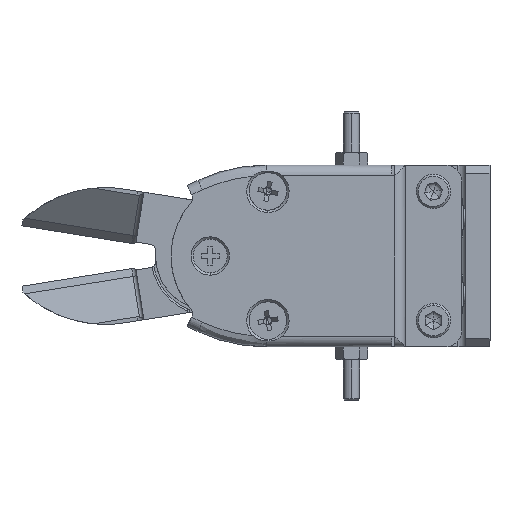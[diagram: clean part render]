
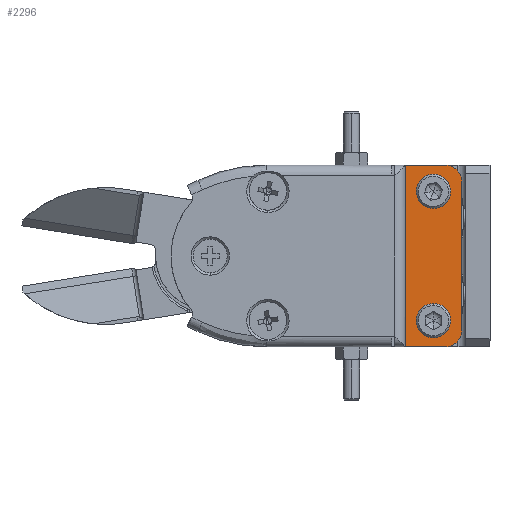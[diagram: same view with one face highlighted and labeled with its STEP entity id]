
A CAD part, left-side view. The second image highlights one B-rep face of the part: STEP entity #2296.
In plain terms, the highlighted planar face has unit normal (-1, 0, 0).
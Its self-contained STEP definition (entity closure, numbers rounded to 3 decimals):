
#403 = DIRECTION ( 'NONE',  ( -1., 0., 0. ) ) ;
#567 = DIRECTION ( 'NONE',  ( 0., 0.982, -0.186 ) ) ;
#611 = DIRECTION ( 'NONE',  ( -1., 0., 0. ) ) ;
#841 = EDGE_CURVE ( 'NONE', #23301, #12647, #6383, .T. ) ;
#861 = VECTOR ( 'NONE', #20092, 1000. ) ;
#977 = EDGE_CURVE ( 'NONE', #8462, #8781, #2519, .T. ) ;
#1055 = DIRECTION ( 'NONE',  ( 0., -0.006, 1. ) ) ;
#1194 = CARTESIAN_POINT ( 'NONE',  ( -90.1, -23.5, -22.5 ) ) ;
#1315 = CARTESIAN_POINT ( 'NONE',  ( -90.1, -23.5, 22.5 ) ) ;
#1389 = CARTESIAN_POINT ( 'NONE',  ( -90.1, -13.5, -22.5 ) ) ;
#1611 = CARTESIAN_POINT ( 'NONE',  ( -90.1, -16.324, 15.208 ) ) ;
#1716 = EDGE_LOOP ( 'NONE', ( #5149, #12360 ) ) ;
#1717 = EDGE_CURVE ( 'NONE', #14702, #5884, #23246, .T. ) ;
#1882 = VECTOR ( 'NONE', #6147, 1000. ) ;
#1999 = CARTESIAN_POINT ( 'NONE',  ( -90.1, -20.5, 16. ) ) ;
#2061 = CARTESIAN_POINT ( 'NONE',  ( -90.1, -23.497, -22.5 ) ) ;
#2296 = ADVANCED_FACE ( 'NONE', ( #3370, #22953, #24440 ), #23199, .T. ) ;
#2311 = EDGE_CURVE ( 'NONE', #17195, #14702, #14922, .T. ) ;
#2494 = VERTEX_POINT ( 'NONE', #2984 ) ;
#2519 = CIRCLE ( 'NONE', #6274, 4.25 ) ;
#2778 = LINE ( 'NONE', #3492, #13475 ) ;
#2984 = CARTESIAN_POINT ( 'NONE',  ( -90.1, -27.5, 18.5 ) ) ;
#3370 = FACE_BOUND ( 'NONE', #17666, .T. ) ;
#3492 = CARTESIAN_POINT ( 'NONE',  ( -90.1, -1.294, -22.5 ) ) ;
#3579 = EDGE_CURVE ( 'NONE', #5537, #9199, #10410, .T. ) ;
#3584 = DIRECTION ( 'NONE',  ( 0., -0.006, 1. ) ) ;
#3801 = EDGE_CURVE ( 'NONE', #12647, #2494, #19861, .T. ) ;
#4737 = LINE ( 'NONE', #22328, #19234 ) ;
#4936 = ORIENTED_EDGE ( 'NONE', *, *, #17059, .T. ) ;
#5149 = ORIENTED_EDGE ( 'NONE', *, *, #6235, .F. ) ;
#5150 = VECTOR ( 'NONE', #15795, 1000. ) ;
#5186 = DIRECTION ( 'NONE',  ( 0., -1., 0. ) ) ;
#5537 = VERTEX_POINT ( 'NONE', #16677 ) ;
#5884 = VERTEX_POINT ( 'NONE', #1315 ) ;
#6077 = CARTESIAN_POINT ( 'NONE',  ( -90.1, -23.5, -18.5 ) ) ;
#6119 = EDGE_CURVE ( 'NONE', #9199, #5537, #12989, .T. ) ;
#6147 = DIRECTION ( 'NONE',  ( 0., -1., 0. ) ) ;
#6235 = EDGE_CURVE ( 'NONE', #8781, #8462, #6465, .T. ) ;
#6251 = EDGE_CURVE ( 'NONE', #2494, #5884, #13575, .T. ) ;
#6274 = AXIS2_PLACEMENT_3D ( 'NONE', #1999, #15267, #567 ) ;
#6383 = CIRCLE ( 'NONE', #8144, 4. ) ;
#6465 = CIRCLE ( 'NONE', #22276, 4.25 ) ;
#6600 = ORIENTED_EDGE ( 'NONE', *, *, #3801, .T. ) ;
#7783 = AXIS2_PLACEMENT_3D ( 'NONE', #20404, #12434, #1055 ) ;
#8099 = CARTESIAN_POINT ( 'NONE',  ( -90.1, -27.5, -18.5 ) ) ;
#8144 = AXIS2_PLACEMENT_3D ( 'NONE', #6077, #17478, #11526 ) ;
#8462 = VERTEX_POINT ( 'NONE', #1611 ) ;
#8781 = VERTEX_POINT ( 'NONE', #18225 ) ;
#8888 = EDGE_CURVE ( 'NONE', #21418, #17195, #2778, .T. ) ;
#9199 = VERTEX_POINT ( 'NONE', #23453 ) ;
#9403 = AXIS2_PLACEMENT_3D ( 'NONE', #21386, #403, #10033 ) ;
#9622 = DIRECTION ( 'NONE',  ( -1., 0., 0. ) ) ;
#9853 = DIRECTION ( 'NONE',  ( 0., 0., 1. ) ) ;
#10033 = DIRECTION ( 'NONE',  ( 0., 0., -1. ) ) ;
#10410 = CIRCLE ( 'NONE', #7783, 4.25 ) ;
#11114 = DIRECTION ( 'NONE',  ( -1., 0., 0. ) ) ;
#11526 = DIRECTION ( 'NONE',  ( 0., 0., -1. ) ) ;
#12360 = ORIENTED_EDGE ( 'NONE', *, *, #977, .F. ) ;
#12404 = AXIS2_PLACEMENT_3D ( 'NONE', #16655, #11114, #3584 ) ;
#12434 = DIRECTION ( 'NONE',  ( -1., 0., 0. ) ) ;
#12647 = VERTEX_POINT ( 'NONE', #8099 ) ;
#12989 = CIRCLE ( 'NONE', #12404, 4.25 ) ;
#13171 = CARTESIAN_POINT ( 'NONE',  ( -90.1, -1.295, 22.5 ) ) ;
#13436 = DIRECTION ( 'NONE',  ( 0., 0.982, -0.186 ) ) ;
#13475 = VECTOR ( 'NONE', #15089, 1000. ) ;
#13575 = CIRCLE ( 'NONE', #9403, 4. ) ;
#13726 = CARTESIAN_POINT ( 'NONE',  ( -90.1, -13.5, 533.466 ) ) ;
#13988 = CARTESIAN_POINT ( 'NONE',  ( -90.1, -13.5, 22.5 ) ) ;
#14403 = AXIS2_PLACEMENT_3D ( 'NONE', #13726, #611, #9853 ) ;
#14643 = ORIENTED_EDGE ( 'NONE', *, *, #2311, .F. ) ;
#14702 = VERTEX_POINT ( 'NONE', #13988 ) ;
#14922 = LINE ( 'NONE', #21274, #5150 ) ;
#15089 = DIRECTION ( 'NONE',  ( 0., 1., 0. ) ) ;
#15267 = DIRECTION ( 'NONE',  ( -1., 0., 0. ) ) ;
#15732 = ORIENTED_EDGE ( 'NONE', *, *, #841, .T. ) ;
#15795 = DIRECTION ( 'NONE',  ( 0., 0., 1. ) ) ;
#16655 = CARTESIAN_POINT ( 'NONE',  ( -90.1, -20.5, -16. ) ) ;
#16677 = CARTESIAN_POINT ( 'NONE',  ( -90.1, -20.524, -11.75 ) ) ;
#17059 = EDGE_CURVE ( 'NONE', #21418, #23301, #4737, .T. ) ;
#17195 = VERTEX_POINT ( 'NONE', #1389 ) ;
#17478 = DIRECTION ( 'NONE',  ( -1., 0., 0. ) ) ;
#17666 = EDGE_LOOP ( 'NONE', ( #18648, #20727 ) ) ;
#18112 = ORIENTED_EDGE ( 'NONE', *, *, #8888, .F. ) ;
#18186 = ORIENTED_EDGE ( 'NONE', *, *, #6251, .T. ) ;
#18225 = CARTESIAN_POINT ( 'NONE',  ( -90.1, -24.676, 16.792 ) ) ;
#18648 = ORIENTED_EDGE ( 'NONE', *, *, #6119, .F. ) ;
#19234 = VECTOR ( 'NONE', #5186, 1000. ) ;
#19861 = LINE ( 'NONE', #23748, #861 ) ;
#20092 = DIRECTION ( 'NONE',  ( 0., 0., 1. ) ) ;
#20404 = CARTESIAN_POINT ( 'NONE',  ( -90.1, -20.5, -16. ) ) ;
#20727 = ORIENTED_EDGE ( 'NONE', *, *, #3579, .F. ) ;
#20978 = CARTESIAN_POINT ( 'NONE',  ( -90.1, -20.5, 16. ) ) ;
#21274 = CARTESIAN_POINT ( 'NONE',  ( -90.1, -13.5, 533.466 ) ) ;
#21386 = CARTESIAN_POINT ( 'NONE',  ( -90.1, -23.5, 18.5 ) ) ;
#21418 = VERTEX_POINT ( 'NONE', #2061 ) ;
#22276 = AXIS2_PLACEMENT_3D ( 'NONE', #20978, #9622, #13436 ) ;
#22328 = CARTESIAN_POINT ( 'NONE',  ( -90.1, -13.5, -22.5 ) ) ;
#22793 = ORIENTED_EDGE ( 'NONE', *, *, #1717, .F. ) ;
#22953 = FACE_BOUND ( 'NONE', #1716, .T. ) ;
#23199 = PLANE ( 'NONE',  #14403 ) ;
#23246 = LINE ( 'NONE', #13171, #1882 ) ;
#23301 = VERTEX_POINT ( 'NONE', #1194 ) ;
#23453 = CARTESIAN_POINT ( 'NONE',  ( -90.1, -20.476, -20.25 ) ) ;
#23748 = CARTESIAN_POINT ( 'NONE',  ( -90.1, -27.5, 533.466 ) ) ;
#23832 = EDGE_LOOP ( 'NONE', ( #22793, #14643, #18112, #4936, #15732, #6600, #18186 ) ) ;
#24440 = FACE_OUTER_BOUND ( 'NONE', #23832, .T. ) ;
